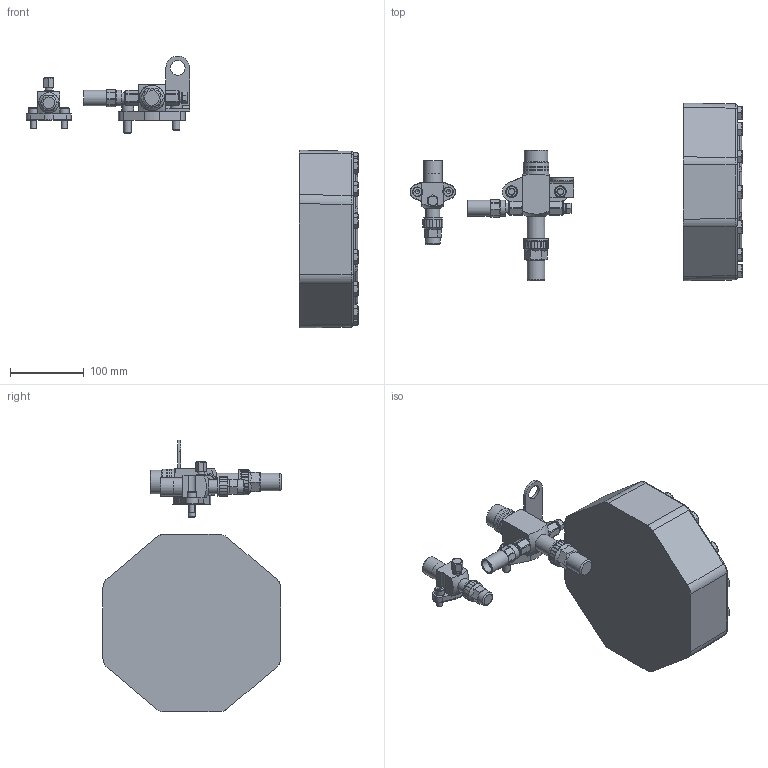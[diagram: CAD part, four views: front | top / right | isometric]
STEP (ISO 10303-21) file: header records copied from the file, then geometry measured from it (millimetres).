
FILE_DESCRIPTION(/* description */ (''),/* implementation_level */ '2;1');
FILE_NAME(/* name */ '4CSL.stp',/* time_stamp */ '2023-11-08T08:02:29+01:00',/* author */ (''),/* organization */ (''),/* preprocessor_version */ 'ST-DEVELOPER v19.3',/* originating_system */ 'SIEMENS PLM Software NX2212.3001',/* authorisation */ '');
FILE_SCHEMA (('AUTOMOTIVE_DESIGN { 1 0 10303 214 3 1 1 1 }'));
Length unit declared in the file: millimetre
Products named in the file (4): SHUT-OFF-VALVE-D28-2X1-4; SHUT-OFF-VALVE-D22L-7-8-HCD42; HOUSING-COVER-C3-HIGH-VERS; 4CSL
Assembly tree (3 placements, depth 2):
  4CSL
    HOUSING-COVER-C3-HIGH-VERS
    SHUT-OFF-VALVE-D22L-7-8-HCD42
    SHUT-OFF-VALVE-D28-2X1-4
Bounding box: 450.78 x 241.71 x 369.2 mm (x, y, z)
Volume: 3956794.9 mm3; surface area: 226446.3 mm2
Topology: 3 solids, 3 shells, 831 faces, 2076 edges, 1299 vertices
Faces by surface type: plane 432, cylinder 184, cone 151, extrusion 31, bspline 24, torus 9
Full cylindrical faces by diameter (mm): 7.794 x2, 9 x3, 9.5 x1, 10 x3, 11 x2, 12 x1, 13 x2, 13.72 x1, 14 x1, 16 x2, 17.506 x1, 18 x1, 18.5 x1, 19 x1, 20 x2, 21.6 x2, 22.35 x1, 24 x3, 25 x2, 27 x2, 28.2 x1, 28.7 x1, 30 x1, 32 x1, 33 x1, 34.5 x1, 35 x3
Entity records: 29725 total; most frequent: CARTESIAN_POINT 6059, ORIENTED_EDGE 3906, DIRECTION 3666, EDGE_CURVE 1953, AXIS2_PLACEMENT_3D 1349, VERTEX_POINT 1261, VECTOR 968, EDGE_LOOP 962
